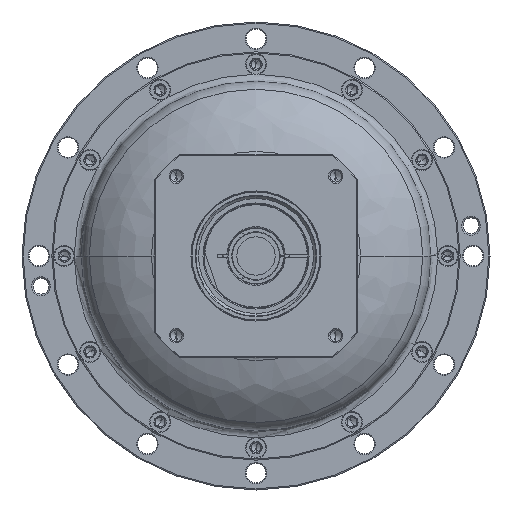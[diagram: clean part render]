
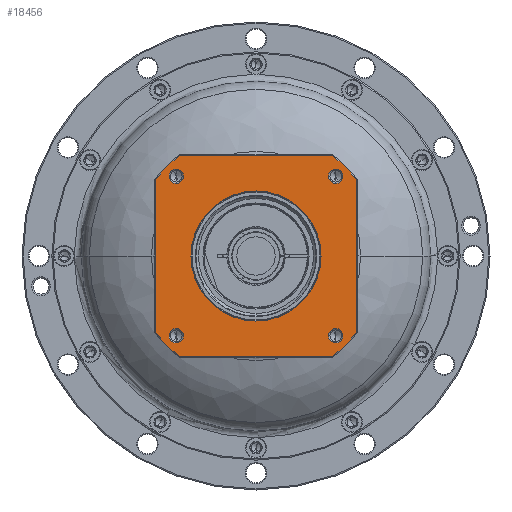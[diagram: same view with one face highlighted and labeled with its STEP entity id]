
A CAD part, left-side view. The second image highlights one B-rep face of the part: STEP entity #18456.
In plain terms, the highlighted planar face has unit normal (-1, 0, 0) as drawn and (0, 0, 1) by its records, which use the part's own axes.
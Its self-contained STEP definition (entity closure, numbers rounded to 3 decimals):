
#17189=DIRECTION('',(1.,0.,0.));
#17190=VECTOR('',#17189,134.666);
#17191=CARTESIAN_POINT('',(-67.333,-89.5,41.));
#17192=LINE('',#17191,#17190);
#17202=CARTESIAN_POINT('',(0.,0.,
41.));
#17203=DIRECTION('',(0.,0.,-1.));
#17204=DIRECTION('',(0.,-1.,0.));
#17205=AXIS2_PLACEMENT_3D('',#17202,#17203,#17204);
#17207=CARTESIAN_POINT('',(0.,0.,
41.));
#17208=DIRECTION('',(0.,0.,-1.));
#17209=DIRECTION('',(0.,1.,0.));
#17210=AXIS2_PLACEMENT_3D('',#17207,#17208,#17209);
#17212=CARTESIAN_POINT('',(0.,0.,41.));
#17213=DIRECTION('',(0.,0.,1.));
#17214=DIRECTION('',(-0.799,-0.601,0.));
#17215=AXIS2_PLACEMENT_3D('',#17212,#17213,#17214);
#17227=DIRECTION('',(0.,-1.,0.));
#17228=VECTOR('',#17227,134.666);
#17229=CARTESIAN_POINT('',(-89.5,67.333,41.));
#17230=LINE('',#17229,#17228);
#17240=CARTESIAN_POINT('',(0.,0.,41.));
#17241=DIRECTION('',(0.,0.,1.));
#17242=DIRECTION('',(-0.601,0.799,0.));
#17243=AXIS2_PLACEMENT_3D('',#17240,#17241,#17242);
#17268=DIRECTION('',(-1.,0.,0.));
#17269=VECTOR('',#17268,134.666);
#17270=CARTESIAN_POINT('',(67.333,89.5,41.));
#17271=LINE('',#17270,#17269);
#17276=CARTESIAN_POINT('',(0.,0.,41.));
#17277=DIRECTION('',(0.,0.,1.));
#17278=DIRECTION('',(0.799,0.601,0.));
#17279=AXIS2_PLACEMENT_3D('',#17276,#17277,#17278);
#17291=DIRECTION('',(0.,1.,0.));
#17292=VECTOR('',#17291,134.666);
#17293=CARTESIAN_POINT('',(89.5,-67.333,41.));
#17294=LINE('',#17293,#17292);
#17396=CARTESIAN_POINT('',(0.,0.,41.));
#17397=DIRECTION('',(0.,0.,1.));
#17398=DIRECTION('',(0.601,-0.799,0.));
#17399=AXIS2_PLACEMENT_3D('',#17396,#17397,#17398);
#17673=CARTESIAN_POINT('',(-70.711,70.711,41.));
#17674=DIRECTION('',(0.,0.,1.));
#17675=DIRECTION('',(-1.,0.,0.));
#17676=AXIS2_PLACEMENT_3D('',#17673,#17674,#17675);
#17691=CARTESIAN_POINT('',(-70.711,70.711,41.));
#17692=DIRECTION('',(0.,0.,1.));
#17693=DIRECTION('',(1.,0.,0.));
#17694=AXIS2_PLACEMENT_3D('',#17691,#17692,#17693);
#17727=CARTESIAN_POINT('',(70.711,70.711,41.));
#17728=DIRECTION('',(0.,0.,1.));
#17729=DIRECTION('',(-1.,0.,0.));
#17730=AXIS2_PLACEMENT_3D('',#17727,#17728,#17729);
#17745=CARTESIAN_POINT('',(70.711,70.711,41.));
#17746=DIRECTION('',(0.,0.,1.));
#17747=DIRECTION('',(1.,0.,0.));
#17748=AXIS2_PLACEMENT_3D('',#17745,#17746,#17747);
#17781=CARTESIAN_POINT('',(70.711,-70.711,41.));
#17782=DIRECTION('',(0.,0.,1.));
#17783=DIRECTION('',(-1.,0.,0.));
#17784=AXIS2_PLACEMENT_3D('',#17781,#17782,#17783);
#17799=CARTESIAN_POINT('',(70.711,-70.711,41.));
#17800=DIRECTION('',(0.,0.,1.));
#17801=DIRECTION('',(1.,0.,0.));
#17802=AXIS2_PLACEMENT_3D('',#17799,#17800,#17801);
#17835=CARTESIAN_POINT('',(-70.711,-70.711,41.));
#17836=DIRECTION('',(0.,0.,1.));
#17837=DIRECTION('',(-1.,0.,0.));
#17838=AXIS2_PLACEMENT_3D('',#17835,#17836,#17837);
#17853=CARTESIAN_POINT('',(-70.711,-70.711,41.));
#17854=DIRECTION('',(0.,0.,1.));
#17855=DIRECTION('',(1.,0.,0.));
#17856=AXIS2_PLACEMENT_3D('',#17853,#17854,#17855);
#17897=CARTESIAN_POINT('',(89.5,-67.333,41.));
#17898=CARTESIAN_POINT('',(89.5,67.333,41.));
#17899=VERTEX_POINT('',#17897);
#17900=VERTEX_POINT('',#17898);
#17905=CARTESIAN_POINT('',(67.333,-89.5,41.));
#17906=VERTEX_POINT('',#17905);
#17909=CARTESIAN_POINT('',(-67.333,-89.5,41.));
#17910=VERTEX_POINT('',#17909);
#17913=CARTESIAN_POINT('',(-89.5,-67.333,41.));
#17914=VERTEX_POINT('',#17913);
#17917=CARTESIAN_POINT('',(-89.5,67.333,41.));
#17918=VERTEX_POINT('',#17917);
#17921=CARTESIAN_POINT('',(-67.333,89.5,41.));
#17922=VERTEX_POINT('',#17921);
#17925=CARTESIAN_POINT('',(67.333,89.5,41.));
#17926=VERTEX_POINT('',#17925);
#17975=CARTESIAN_POINT('',(-77.111,70.711,41.));
#17976=CARTESIAN_POINT('',(-64.311,70.711,41.));
#17977=VERTEX_POINT('',#17975);
#17978=VERTEX_POINT('',#17976);
#18009=CARTESIAN_POINT('',(77.111,70.711,41.));
#18010=CARTESIAN_POINT('',(64.311,70.711,41.));
#18011=VERTEX_POINT('',#18009);
#18012=VERTEX_POINT('',#18010);
#18017=CARTESIAN_POINT('',(77.111,-70.711,41.));
#18018=CARTESIAN_POINT('',(64.311,-70.711,41.));
#18019=VERTEX_POINT('',#18017);
#18020=VERTEX_POINT('',#18018);
#18025=CARTESIAN_POINT('',(-64.311,-70.711,41.));
#18026=CARTESIAN_POINT('',(-77.111,-70.711,41.));
#18027=VERTEX_POINT('',#18025);
#18028=VERTEX_POINT('',#18026);
#18033=CARTESIAN_POINT('',(0.,-57.65,41.));
#18034=CARTESIAN_POINT('',(0.,57.65,41.));
#18035=VERTEX_POINT('',#18033);
#18036=VERTEX_POINT('',#18034);
#18404=CARTESIAN_POINT('',(0.,0.,41.));
#18405=DIRECTION('',(0.,0.,1.));
#18406=DIRECTION('',(1.,0.,0.));
#18407=AXIS2_PLACEMENT_3D('',#18404,#18405,#18406);
#18408=PLANE('',#18407);
#18410=ORIENTED_EDGE('',*,*,#18409,.F.);
#18412=ORIENTED_EDGE('',*,*,#18411,.F.);
#18414=ORIENTED_EDGE('',*,*,#18413,.F.);
#18416=ORIENTED_EDGE('',*,*,#18415,.F.);
#18418=ORIENTED_EDGE('',*,*,#18417,.F.);
#18420=ORIENTED_EDGE('',*,*,#18419,.F.);
#18422=ORIENTED_EDGE('',*,*,#18421,.F.);
#18423=ORIENTED_EDGE('',*,*,#18394,.F.);
#18424=EDGE_LOOP('',(#18410,#18412,#18414,#18416,#18418,#18420,#18422,#18423));
#18425=FACE_OUTER_BOUND('',#18424,.F.);
#18427=ORIENTED_EDGE('',*,*,#18426,.F.);
#18429=ORIENTED_EDGE('',*,*,#18428,.F.);
#18430=EDGE_LOOP('',(#18427,#18429));
#18431=FACE_BOUND('',#18430,.F.);
#18433=ORIENTED_EDGE('',*,*,#18432,.T.);
#18435=ORIENTED_EDGE('',*,*,#18434,.T.);
#18436=EDGE_LOOP('',(#18433,#18435));
#18437=FACE_BOUND('',#18436,.F.);
#18439=ORIENTED_EDGE('',*,*,#18438,.T.);
#18441=ORIENTED_EDGE('',*,*,#18440,.T.);
#18442=EDGE_LOOP('',(#18439,#18441));
#18443=FACE_BOUND('',#18442,.F.);
#18445=ORIENTED_EDGE('',*,*,#18444,.T.);
#18447=ORIENTED_EDGE('',*,*,#18446,.T.);
#18448=EDGE_LOOP('',(#18445,#18447));
#18449=FACE_BOUND('',#18448,.F.);
#18451=ORIENTED_EDGE('',*,*,#18450,.T.);
#18453=ORIENTED_EDGE('',*,*,#18452,.T.);
#18454=EDGE_LOOP('',(#18451,#18453));
#18455=FACE_BOUND('',#18454,.F.);
#18456=ADVANCED_FACE('',(#18425,#18431,#18437,#18443,#18449,#18455),#18408,.T.);
#17206=CIRCLE('',#17205,57.65);
#17211=CIRCLE('',#17210,57.65);
#17216=CIRCLE('',#17215,112.);
#17244=CIRCLE('',#17243,112.);
#17280=CIRCLE('',#17279,112.);
#17400=CIRCLE('',#17399,112.);
#17677=CIRCLE('',#17676,6.4);
#17695=CIRCLE('',#17694,6.4);
#17731=CIRCLE('',#17730,6.4);
#17749=CIRCLE('',#17748,6.4);
#17785=CIRCLE('',#17784,6.4);
#17803=CIRCLE('',#17802,6.4);
#17839=CIRCLE('',#17838,6.4);
#17857=CIRCLE('',#17856,6.4);
#18394=EDGE_CURVE('',#17910,#17906,#17192,.T.);
#18409=EDGE_CURVE('',#17914,#17910,#17216,.T.);
#18411=EDGE_CURVE('',#17918,#17914,#17230,.T.);
#18413=EDGE_CURVE('',#17922,#17918,#17244,.T.);
#18415=EDGE_CURVE('',#17926,#17922,#17271,.T.);
#18417=EDGE_CURVE('',#17900,#17926,#17280,.T.);
#18419=EDGE_CURVE('',#17899,#17900,#17294,.T.);
#18421=EDGE_CURVE('',#17906,#17899,#17400,.T.);
#18426=EDGE_CURVE('',#18035,#18036,#17206,.T.);
#18428=EDGE_CURVE('',#18036,#18035,#17211,.T.);
#18432=EDGE_CURVE('',#17977,#17978,#17677,.T.);
#18434=EDGE_CURVE('',#17978,#17977,#17695,.T.);
#18438=EDGE_CURVE('',#18012,#18011,#17731,.T.);
#18440=EDGE_CURVE('',#18011,#18012,#17749,.T.);
#18444=EDGE_CURVE('',#18020,#18019,#17785,.T.);
#18446=EDGE_CURVE('',#18019,#18020,#17803,.T.);
#18450=EDGE_CURVE('',#18028,#18027,#17839,.T.);
#18452=EDGE_CURVE('',#18027,#18028,#17857,.T.);
